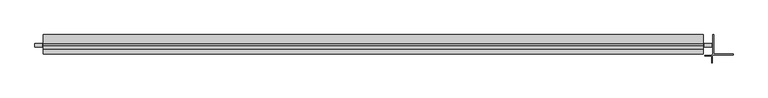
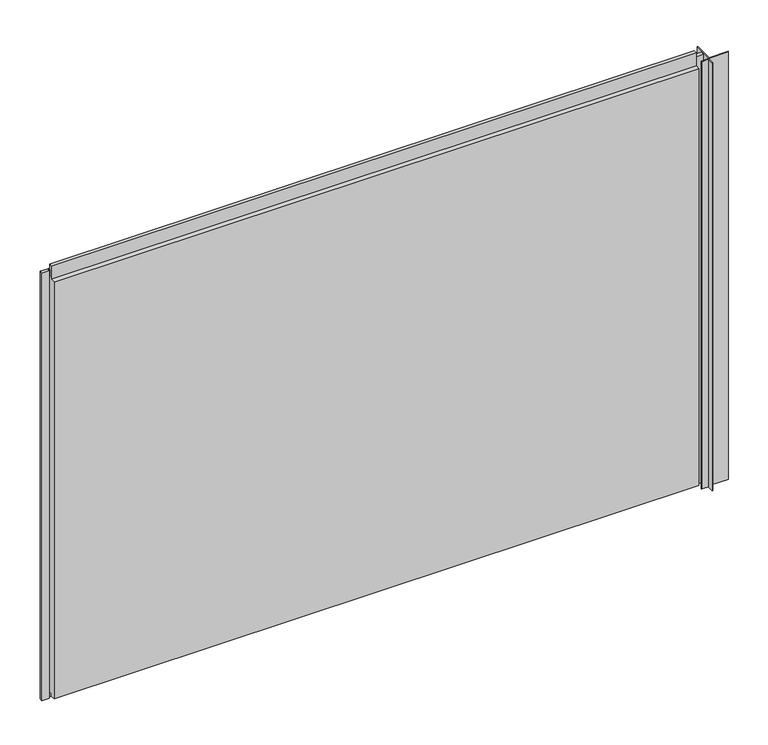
"""IFC4 building model written with IfcOpenShell, lengths in millimetres: plate geometry, Trimo_Qbiss Screen_Normal Panel-HORIZONTAL : HR - B."""

import ifcopenshell
import ifcopenshell.guid

model = None  # the IFC model being written
_history = None  # IfcOwnerHistory: only IFC2X3 demands one
_inside = {}  # id of a spatial element -> (the spatial element, [elements in it])
_under = {}  # id of a project, library or spatial element -> (it, [spatial elements below it])
_declared = {}  # id of a project -> (the project, [libraries it declares])
_typed = {}  # id of a type object -> (the type object, [elements of that type])
_made_of = {}  # id of a material, layer set ... -> (it, [elements and type objects made of it])


def new_model(schema):
    """Start an empty IFC model of exactly this schema.

    Asked for "IFC4X3", IfcOpenShell would pick the latest addendum, in which some entities
    have other attributes; the version numbers below select the first issue.
    IFC2X3 requires an IfcOwnerHistory on every rooted entity: one is made here for all.
    """
    global model, _history
    if schema == "IFC4X3":
        model = ifcopenshell.file(schema_version=(4, 3, 0, 0))
    else:
        model = ifcopenshell.file(schema=schema)
    _inside.clear()
    _under.clear()
    _declared.clear()
    _typed.clear()
    _made_of.clear()
    _history = None
    if model.schema == "IFC2X3":
        org = make("IfcOrganization", Name="unknown")
        user = make(
            "IfcPersonAndOrganization",
            ThePerson=make("IfcPerson", FamilyName="unknown"),
            TheOrganization=org,
        )
        app = make(
            "IfcApplication",
            ApplicationDeveloper=org,
            Version="unknown",
            ApplicationFullName="unknown",
            ApplicationIdentifier="unknown",
        )
        _history = make(
            "IfcOwnerHistory",
            OwningUser=user,
            OwningApplication=app,
            ChangeAction="ADDED",
            CreationDate=0,
        )
    return model


def make(cls, **values):
    """One entity of the class cls with the attributes given. An attribute that is None is left unset."""
    return model.create_entity(
        cls, **{name: value for name, value in values.items() if value is not None}
    )


def rooted(cls, **values):
    """An entity with a GlobalId (a new one), such as an element, a storey or a relation."""
    return make(cls, GlobalId=ifcopenshell.guid.new(), OwnerHistory=_history, **values)


def si_unit(unit_type, name, prefix=None):
    """IfcSIUnit, for example si_unit("LENGTHUNIT", "METRE", prefix="MILLI")."""
    return make("IfcSIUnit", UnitType=unit_type, Prefix=prefix, Name=name)


def assignment(units):
    """IfcUnitAssignment: the units of a project."""
    return None if units is None else make("IfcUnitAssignment", Units=units)


def point(xyz):
    """IfcCartesianPoint."""
    return None if xyz is None else make("IfcCartesianPoint", Coordinates=xyz)


def direction(xyz):
    """IfcDirection."""
    return None if xyz is None else make("IfcDirection", DirectionRatios=xyz)


def frame(location, z_axis=None, x_axis=None):
    """IfcAxis2Placement3D, a coordinate frame: its origin and axes. An axis left out is left unset."""
    return make(
        "IfcAxis2Placement3D",
        Location=point(location),
        Axis=direction(z_axis),
        RefDirection=direction(x_axis),
    )


def origin():
    """The frame at (0, 0, 0) with its axes left unset."""
    return frame((0.0, 0.0, 0.0))


def place(relative_to, where):
    """IfcLocalPlacement: puts the frame where relative to a parent placement (None: the world)."""
    return make(
        "IfcLocalPlacement", PlacementRelTo=relative_to, RelativePlacement=where
    )


def context(
    kind, dimensions, precision=None, world=None, true_north=None, identifier=None
):
    """IfcGeometricRepresentationContext, for example the 3D "Model" context."""
    return make(
        "IfcGeometricRepresentationContext",
        ContextIdentifier=identifier,
        ContextType=kind,
        CoordinateSpaceDimension=dimensions,
        Precision=precision,
        WorldCoordinateSystem=world,
        TrueNorth=true_north,
    )


def project(units=None, contexts=None):
    """IfcProject with its units and contexts."""
    return rooted(
        "IfcProject",
        Name="project",
        RepresentationContexts=contexts,
        UnitsInContext=assignment(units),
    )


def spatial(cls, under=None, at=None, **own):
    """A site, building, storey or space (cls), placed at a placement, below another one or the project."""
    s = rooted(cls, ObjectPlacement=at, **own)
    if under is not None:
        _under.setdefault(under.id(), (under, []))[1].append(s)
    return s


def polyline(points):
    """IfcPolyline through the points."""
    return make("IfcPolyline", Points=[point(p) for p in points])


def outline(outer, holes=None, kind="AREA"):
    """IfcArbitraryClosedProfileDef: a profile drawn as a closed curve; with holes, ...WithVoids."""
    if holes is None:
        return make("IfcArbitraryClosedProfileDef", ProfileType=kind, OuterCurve=outer)
    return make(
        "IfcArbitraryProfileDefWithVoids",
        ProfileType=kind,
        OuterCurve=outer,
        InnerCurves=holes,
    )


def extrude(swept, where, along, depth):
    """IfcExtrudedAreaSolid: the profile swept, set in the frame where, extruded along a direction by depth."""
    return make(
        "IfcExtrudedAreaSolid",
        SweptArea=swept,
        Position=where,
        ExtrudedDirection=direction(along),
        Depth=depth,
    )


def shape(context_of_items, identifier, shape_type, items):
    """IfcShapeRepresentation: the items that make up one representation, for example the "Body"."""
    return make(
        "IfcShapeRepresentation",
        ContextOfItems=context_of_items,
        RepresentationIdentifier=identifier,
        RepresentationType=shape_type,
        Items=items,
    )


def source(mapping_origin, context_of_items, identifier, shape_type, items):
    """IfcRepresentationMap: a shape defined once, which mapped items show again and again."""
    return make(
        "IfcRepresentationMap",
        MappingOrigin=mapping_origin,
        MappedRepresentation=shape(context_of_items, identifier, shape_type, items),
    )


def transform(
    local_origin,
    x_axis=None,
    y_axis=None,
    z_axis=None,
    scale=None,
    scale2=None,
    scale3=None,
    uniform=True,
):
    """IfcCartesianTransformationOperator3D, or its non-uniform kind. x_axis, y_axis, z_axis: its Axis1, 2, 3."""
    if uniform:
        return make(
            "IfcCartesianTransformationOperator3D",
            Axis1=direction(x_axis),
            Axis2=direction(y_axis),
            LocalOrigin=point(local_origin),
            Scale=scale,
            Axis3=direction(z_axis),
        )
    return make(
        "IfcCartesianTransformationOperator3DnonUniform",
        Axis1=direction(x_axis),
        Axis2=direction(y_axis),
        LocalOrigin=point(local_origin),
        Scale=scale,
        Axis3=direction(z_axis),
        Scale2=scale2,
        Scale3=scale3,
    )


def mapped(mapping_source, mapping_target):
    """IfcMappedItem: shows the shape of a source again, moved by a transform."""
    return make(
        "IfcMappedItem", MappingSource=mapping_source, MappingTarget=mapping_target
    )


def made_of(thing, what):
    """Note that an element or type object is made of a material, layer set ...; save() writes the relation."""
    if what is not None:
        _made_of.setdefault(what.id(), (what, []))[1].append(thing)
    return thing


def element(
    cls,
    number,
    at=None,
    inside=None,
    cuts=None,
    type_object=None,
    material=None,
    context=None,
    identifier="Body",
    shape_type=None,
    held_by="IfcProductDefinitionShape",
    body=None,
    shapes=None,
    **own,
):
    """One element of the class cls, such as IfcWall. Its Tag is "e" and its number.

    at: its placement. inside: the storey or other place that contains it. cuts: it is an
    opening in that element (IfcRelVoidsElement). A single representation is given by context,
    identifier, shape_type and body (its items); several are given by shapes. held_by: the class
    of the entity that holds the representations. save() writes the other relations.
    """
    e = rooted(cls, Tag="e%d" % number, ObjectPlacement=at, **own)
    if body is not None:
        shapes = [shape(context, identifier, shape_type, body)]
    if shapes is not None:
        e.Representation = make(held_by, Representations=shapes)
    if inside is not None:
        _inside.setdefault(inside.id(), (inside, []))[1].append(e)
    if cuts is not None:
        rooted(
            "IfcRelVoidsElement", RelatingBuildingElement=cuts, RelatedOpeningElement=e
        )
    if type_object is not None:
        _typed.setdefault(type_object.id(), (type_object, []))[1].append(e)
    return made_of(e, material)


def aggregate(whole, parts):
    """IfcRelAggregates: a whole, such as a stair, and the parts it consists of."""
    return rooted("IfcRelAggregates", RelatingObject=whole, RelatedObjects=parts)


def save(model, path):
    """Write the relations noted so far, then the file.

    IfcRelAggregates (storeys below a building ...), IfcRelContainedInSpatialStructure (elements
    in a storey), IfcRelDefinesByType, IfcRelAssociatesMaterial and IfcRelDeclares: one each for
    every whole, place, type object, material and project.
    """
    for whole, parts in _under.values():
        aggregate(whole, parts)
    for where, things in _inside.values():
        rooted(
            "IfcRelContainedInSpatialStructure",
            RelatedElements=things,
            RelatingStructure=where,
        )
    for kind, things in _typed.values():
        rooted("IfcRelDefinesByType", RelatedObjects=things, RelatingType=kind)
    for what, things in _made_of.values():
        rooted("IfcRelAssociatesMaterial", RelatedObjects=things, RelatingMaterial=what)
    for by, libraries in _declared.values():
        rooted("IfcRelDeclares", RelatingContext=by, RelatedDefinitions=libraries)
    model.write(path)


def plate_16f9e6c7(model_context):
    return source(origin(), model_context, "Body", "SweptSolid", [
        extrude(outline(polyline([(-840.5, 76.5978162), (-840.5, 67.8978162), (-859.5, 67.8978162), (-859.5, 76.5978162), (-840.5, 76.5978162)])), frame((0.0, 0.0, -1.0), z_axis=(0.0, 0.0, 1.0), x_axis=(1.0, 0.0, 0.0)), (0.0, 0.0, 1.0), 1200.0),
        extrude(outline(polyline([(876.0, 67.8978162), (876.0, 76.5978162), (895.0, 76.5978162), (895.0, 67.8978162), (876.0, 67.8978162)])), frame((0.0, 0.0, -1.0), z_axis=(0.0, 0.0, 1.0), x_axis=(1.0, 0.0, 0.0)), (0.0, 0.0, 1.0), 1200.0),
        extrude(outline(polyline([(873.0, 76.0), (873.0, 71.0), (-837.5, 71.0), (-837.5, 76.0), (873.0, 76.0)])), frame((0.0, 0.0, 1178.0), z_axis=(0.0, 0.0, 1.0), x_axis=(1.0, 0.0, 0.0)), (0.0, 0.0, 1.0), 21.0),
        extrude(outline(polyline([(71.0, 1177.0), (100.0, 1177.0), (100.0, 0.0), (72.0, 0.0), (72.0, 15.5), (62.0, 15.5), (62.0, 7.0), (50.0, 7.0), (50.0, 1177.0), (63.0, 1177.0), (63.0, 1214.5), (71.0, 1214.5), (71.0, 1177.0)])), frame((-837.5, 0.0, 0.0), z_axis=(1.0, 0.0, 0.0), x_axis=(0.0, 1.0, 0.0)), (0.0, 0.0, 1.0), 1710.5),
        extrude(outline(polyline([(898.0, 100.0), (900.0, 100.0), (900.0, 49.8183206), (950.2, 49.8183206), (950.2, 47.8183206), (899.4142136, 47.8183206), (896.6823429, 45.0864499), (896.6823429, 26.5864499), (894.6823429, 26.5864499), (894.6823429, 44.5006635), (876.7681293, 44.5006635), (876.7681293, 46.5006635), (895.2681293, 46.5006635), (898.0, 49.2325342), (898.0, 100.0)])), frame((0.0, 0.0, -1.0), z_axis=(0.0, 0.0, 1.0), x_axis=(1.0, 0.0, 0.0)), (0.0, 0.0, 1.0), 1200.0),
    ])


if __name__ == "__main__":
    model = new_model("IFC4")
    model_context = context("Model", 3, world=origin())
    ifc_project = project(units=[si_unit("LENGTHUNIT", "METRE", prefix="MILLI")], contexts=[model_context])
    site = spatial("IfcSite", under=ifc_project)
    building = spatial("IfcBuilding", under=site)
    placement = place(None, origin())
    plate_shape = plate_16f9e6c7(model_context)
    element("IfcPlate", 1, ObjectType="Trimo_Qbiss Screen_Normal Panel-HORIZONTAL : HR - B", at=placement, inside=building, context=model_context, shape_type="MappedRepresentation", body=[
        mapped(plate_shape, transform((0.0, 0.0, 0.0), x_axis=(1.0, 0.0, 0.0), y_axis=(0.0, 1.0, 0.0), z_axis=(0.0, 0.0, 1.0))),
    ])
    save(model, "model.ifc")
